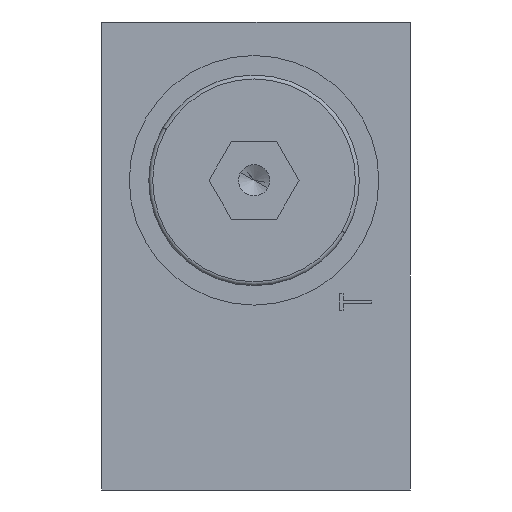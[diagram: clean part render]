
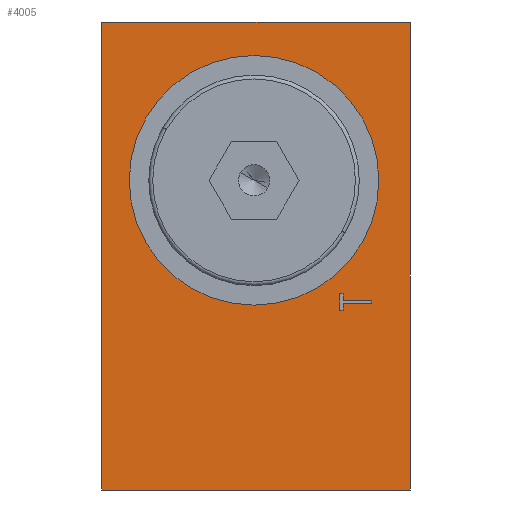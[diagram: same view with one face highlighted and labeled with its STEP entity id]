
A CAD part, left-side view. The second image highlights one B-rep face of the part: STEP entity #4005.
In plain terms, the highlighted planar face has unit normal (-1, 0, 0).
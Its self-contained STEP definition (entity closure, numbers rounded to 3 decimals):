
#10 = ORIENTED_EDGE ( 'NONE', *, *, #3471, .F. ) ;
#74 = DIRECTION ( 'NONE',  ( 0., 0., -1. ) ) ;
#259 = CARTESIAN_POINT ( 'NONE',  ( 0., -19.75, -30. ) ) ;
#322 = CARTESIAN_POINT ( 'NONE',  ( 0., -11.16, -5.718 ) ) ;
#357 = FACE_OUTER_BOUND ( 'NONE', #2385, .T. ) ;
#396 = VECTOR ( 'NONE', #4116, 1000. ) ;
#399 = DIRECTION ( 'NONE',  ( -1., 0., 0. ) ) ;
#407 = ORIENTED_EDGE ( 'NONE', *, *, #3716, .F. ) ;
#436 = LINE ( 'NONE', #259, #4832 ) ;
#448 = LINE ( 'NONE', #3876, #4960 ) ;
#481 = ORIENTED_EDGE ( 'NONE', *, *, #2514, .F. ) ;
#563 = CARTESIAN_POINT ( 'NONE',  ( 0., -14.75, -6.077 ) ) ;
#674 = AXIS2_PLACEMENT_3D ( 'NONE', #3593, #5098, #2285 ) ;
#741 = CARTESIAN_POINT ( 'NONE',  ( 0., -14.75, -6.077 ) ) ;
#771 = ORIENTED_EDGE ( 'NONE', *, *, #3351, .F. ) ;
#836 = ORIENTED_EDGE ( 'NONE', *, *, #2491, .F. ) ;
#862 = LINE ( 'NONE', #4859, #2223 ) ;
#894 = CARTESIAN_POINT ( 'NONE',  ( 0., -14.75, -5.718 ) ) ;
#914 = DIRECTION ( 'NONE',  ( 0., 0., -1. ) ) ;
#917 = VERTEX_POINT ( 'NONE', #5145 ) ;
#991 = ORIENTED_EDGE ( 'NONE', *, *, #5262, .T. ) ;
#996 = CARTESIAN_POINT ( 'NONE',  ( 0., -10.75, -6.949 ) ) ;
#1001 = ORIENTED_EDGE ( 'NONE', *, *, #3908, .T. ) ;
#1002 = LINE ( 'NONE', #1278, #3312 ) ;
#1048 = PLANE ( 'NONE',  #2991 ) ;
#1063 = DIRECTION ( 'NONE',  ( 0., -1., 0. ) ) ;
#1156 = VERTEX_POINT ( 'NONE', #3334 ) ;
#1168 = ORIENTED_EDGE ( 'NONE', *, *, #3921, .T. ) ;
#1232 = CARTESIAN_POINT ( 'NONE',  ( 0., -11.16, -5.718 ) ) ;
#1278 = CARTESIAN_POINT ( 'NONE',  ( 0., -19.75, 30. ) ) ;
#1404 = ORIENTED_EDGE ( 'NONE', *, *, #4768, .T. ) ;
#1488 = VERTEX_POINT ( 'NONE', #2194 ) ;
#1490 = LINE ( 'NONE', #4849, #3684 ) ;
#1505 = FACE_BOUND ( 'NONE', #5269, .T. ) ;
#1569 = VERTEX_POINT ( 'NONE', #2123 ) ;
#1570 = ORIENTED_EDGE ( 'NONE', *, *, #2428, .T. ) ;
#1651 = EDGE_CURVE ( 'NONE', #1488, #5465, #3510, .T. ) ;
#1709 = LINE ( 'NONE', #741, #3860 ) ;
#1735 = DIRECTION ( 'NONE',  ( 0., 1., 0. ) ) ;
#1881 = VERTEX_POINT ( 'NONE', #1232 ) ;
#2123 = CARTESIAN_POINT ( 'NONE',  ( 0., -11.16, -6.949 ) ) ;
#2138 = ORIENTED_EDGE ( 'NONE', *, *, #2480, .T. ) ;
#2193 = CARTESIAN_POINT ( 'NONE',  ( 0., -10.75, -4.846 ) ) ;
#2194 = CARTESIAN_POINT ( 'NONE',  ( 0., 0.25, 25.7 ) ) ;
#2208 = ORIENTED_EDGE ( 'NONE', *, *, #2511, .T. ) ;
#2223 = VECTOR ( 'NONE', #5259, 1000. ) ;
#2284 = LINE ( 'NONE', #2193, #3254 ) ;
#2285 = DIRECTION ( 'NONE',  ( 0., 0., 1. ) ) ;
#2309 = CARTESIAN_POINT ( 'NONE',  ( 0., -19.75, 30. ) ) ;
#2328 = CARTESIAN_POINT ( 'NONE',  ( 0., 0.25, -6.3 ) ) ;
#2385 = EDGE_LOOP ( 'NONE', ( #407, #481, #771, #836 ) ) ;
#2428 = EDGE_CURVE ( 'NONE', #917, #5355, #2284, .T. ) ;
#2456 = VERTEX_POINT ( 'NONE', #894 ) ;
#2480 = EDGE_CURVE ( 'NONE', #5355, #1881, #1490, .T. ) ;
#2491 = EDGE_CURVE ( 'NONE', #3582, #3039, #2634, .T. ) ;
#2511 = EDGE_CURVE ( 'NONE', #1881, #2456, #3422, .T. ) ;
#2514 = EDGE_CURVE ( 'NONE', #2678, #1156, #1002, .T. ) ;
#2574 = CARTESIAN_POINT ( 'NONE',  ( 0., 19.75, -30. ) ) ;
#2601 = VERTEX_POINT ( 'NONE', #5458 ) ;
#2634 = LINE ( 'NONE', #4433, #4626 ) ;
#2678 = VERTEX_POINT ( 'NONE', #2309 ) ;
#2753 = FACE_BOUND ( 'NONE', #4420, .T. ) ;
#2760 = DIRECTION ( 'NONE',  ( 0., -1., 0. ) ) ;
#2918 = LINE ( 'NONE', #996, #396 ) ;
#2971 = ORIENTED_EDGE ( 'NONE', *, *, #1651, .F. ) ;
#2977 = DIRECTION ( 'NONE',  ( 0., 0., 1. ) ) ;
#2991 = AXIS2_PLACEMENT_3D ( 'NONE', #2574, #5368, #2977 ) ;
#3039 = VERTEX_POINT ( 'NONE', #4816 ) ;
#3192 = CARTESIAN_POINT ( 'NONE',  ( 0., 0.25, 9.7 ) ) ;
#3254 = VECTOR ( 'NONE', #2760, 1000. ) ;
#3312 = VECTOR ( 'NONE', #5311, 1000. ) ;
#3328 = LINE ( 'NONE', #3646, #5328 ) ;
#3334 = CARTESIAN_POINT ( 'NONE',  ( 0., -19.75, -30. ) ) ;
#3351 = EDGE_CURVE ( 'NONE', #3039, #2678, #448, .T. ) ;
#3422 = LINE ( 'NONE', #322, #5439 ) ;
#3471 = EDGE_CURVE ( 'NONE', #5465, #1488, #3575, .T. ) ;
#3510 = CIRCLE ( 'NONE', #674, 16. ) ;
#3575 = CIRCLE ( 'NONE', #4289, 16. ) ;
#3579 = DIRECTION ( 'NONE',  ( 0., 0., 1. ) ) ;
#3582 = VERTEX_POINT ( 'NONE', #3726 ) ;
#3593 = CARTESIAN_POINT ( 'NONE',  ( 0., 0.25, 9.7 ) ) ;
#3646 = CARTESIAN_POINT ( 'NONE',  ( 0., -11.16, -6.077 ) ) ;
#3684 = VECTOR ( 'NONE', #4913, 1000. ) ;
#3703 = CARTESIAN_POINT ( 'NONE',  ( 0., -14.75, -5.718 ) ) ;
#3716 = EDGE_CURVE ( 'NONE', #1156, #3582, #436, .T. ) ;
#3726 = CARTESIAN_POINT ( 'NONE',  ( 0., 19.75, -30. ) ) ;
#3739 = ORIENTED_EDGE ( 'NONE', *, *, #3956, .T. ) ;
#3860 = VECTOR ( 'NONE', #3895, 1000. ) ;
#3876 = CARTESIAN_POINT ( 'NONE',  ( 0., -19.75, 30. ) ) ;
#3895 = DIRECTION ( 'NONE',  ( 0., 1., 0. ) ) ;
#3908 = EDGE_CURVE ( 'NONE', #4423, #1569, #3328, .T. ) ;
#3921 = EDGE_CURVE ( 'NONE', #1569, #2601, #862, .T. ) ;
#3956 = EDGE_CURVE ( 'NONE', #2456, #4000, #4454, .T. ) ;
#4000 = VERTEX_POINT ( 'NONE', #563 ) ;
#4005 = ADVANCED_FACE ( 'NONE', ( #1505, #357, #2753 ), #1048, .T. ) ;
#4116 = DIRECTION ( 'NONE',  ( 0., 0., 1. ) ) ;
#4289 = AXIS2_PLACEMENT_3D ( 'NONE', #3192, #399, #3579 ) ;
#4326 = VECTOR ( 'NONE', #74, 1000. ) ;
#4420 = EDGE_LOOP ( 'NONE', ( #991, #1001, #1168, #1404, #1570, #2138, #2208, #3739 ) ) ;
#4423 = VERTEX_POINT ( 'NONE', #5494 ) ;
#4433 = CARTESIAN_POINT ( 'NONE',  ( 0., 19.75, 30. ) ) ;
#4454 = LINE ( 'NONE', #3703, #4326 ) ;
#4626 = VECTOR ( 'NONE', #5148, 1000. ) ;
#4768 = EDGE_CURVE ( 'NONE', #2601, #917, #2918, .T. ) ;
#4816 = CARTESIAN_POINT ( 'NONE',  ( 0., 19.75, 30. ) ) ;
#4832 = VECTOR ( 'NONE', #1735, 1000. ) ;
#4849 = CARTESIAN_POINT ( 'NONE',  ( 0., -11.16, -4.846 ) ) ;
#4859 = CARTESIAN_POINT ( 'NONE',  ( 0., -11.16, -6.949 ) ) ;
#4913 = DIRECTION ( 'NONE',  ( 0., 0., -1. ) ) ;
#4960 = VECTOR ( 'NONE', #5080, 1000. ) ;
#5080 = DIRECTION ( 'NONE',  ( 0., -1., 0. ) ) ;
#5098 = DIRECTION ( 'NONE',  ( -1., 0., 0. ) ) ;
#5145 = CARTESIAN_POINT ( 'NONE',  ( 0., -10.75, -4.846 ) ) ;
#5148 = DIRECTION ( 'NONE',  ( 0., 0., 1. ) ) ;
#5259 = DIRECTION ( 'NONE',  ( 0., 1., 0. ) ) ;
#5262 = EDGE_CURVE ( 'NONE', #4000, #4423, #1709, .T. ) ;
#5269 = EDGE_LOOP ( 'NONE', ( #2971, #10 ) ) ;
#5311 = DIRECTION ( 'NONE',  ( 0., 0., -1. ) ) ;
#5328 = VECTOR ( 'NONE', #914, 1000. ) ;
#5355 = VERTEX_POINT ( 'NONE', #5514 ) ;
#5368 = DIRECTION ( 'NONE',  ( -1., 0., 0. ) ) ;
#5439 = VECTOR ( 'NONE', #1063, 1000. ) ;
#5458 = CARTESIAN_POINT ( 'NONE',  ( 0., -10.75, -6.949 ) ) ;
#5465 = VERTEX_POINT ( 'NONE', #2328 ) ;
#5494 = CARTESIAN_POINT ( 'NONE',  ( 0., -11.16, -6.077 ) ) ;
#5514 = CARTESIAN_POINT ( 'NONE',  ( 0., -11.16, -4.846 ) ) ;
